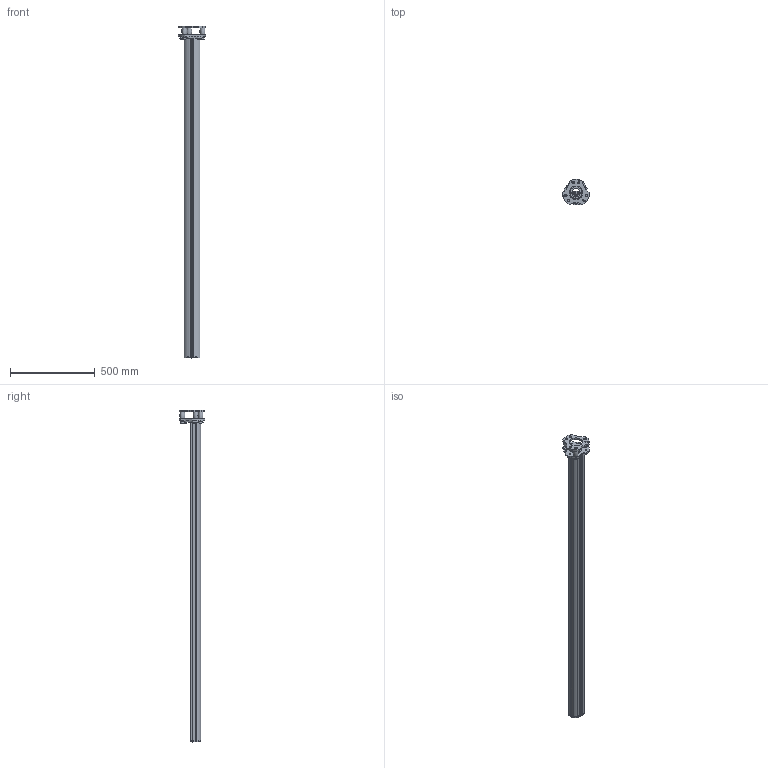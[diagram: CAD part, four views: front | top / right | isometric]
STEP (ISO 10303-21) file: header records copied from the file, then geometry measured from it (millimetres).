
FILE_DESCRIPTION((''),'2;1');
FILE_NAME('M:\INVENTORjob\Konstruktion\Ó\dulen\Baugruppe\Bauraummodelle\stp\549783_UMC-1900-S2.stp','2012-07-11T10:13:51',('seisen'),(''),'Autodesk Inventor 2009','Autodesk Inventor 2009','');
FILE_SCHEMA(('AUTOMOTIVE_DESIGN { 1 0 10303 214 1 1 1 1 }'));
Length unit declared in the file: millimetre
Products named in the file (23): 549783_UMC-1900-S2; 549783_UMC-1900-S21; 549783_UMC-1900-S22; 549783_UMC-1900-S23; 549783_UMC-1900-S24; 549783_UMC-1900-S25; 549783_UMC-1900-S26; 549783_UMC-1900-S27; 549783_UMC-1900-S28; 549783_UMC-1900-S29; 549783_UMC-1900-S210; 549783_UMC-1900-S211; 549783_UMC-1900-S212; 549783_UMC-1900-S213; 549783_UMC-1900-S214; 549783_UMC-1900-S215; 549783_UMC-1900-S216; 549783_UMC-1900-S217; 549783_UMC-1900-S218; 549783_UMC-1900-S219; 549783_UMC-1900-S220; 549783_UMC-1900-S221; 549783_UMC-1900-S222
Assembly tree (22 placements, depth 2):
  549783_UMC-1900-S2
    549783_UMC-1900-S21
    549783_UMC-1900-S22
    549783_UMC-1900-S23
    549783_UMC-1900-S24
    549783_UMC-1900-S25
    549783_UMC-1900-S26
    549783_UMC-1900-S27
    549783_UMC-1900-S28
    549783_UMC-1900-S29
    549783_UMC-1900-S210
    549783_UMC-1900-S211
    549783_UMC-1900-S212
    549783_UMC-1900-S213
    549783_UMC-1900-S214
    549783_UMC-1900-S215
    549783_UMC-1900-S216
    549783_UMC-1900-S217
    549783_UMC-1900-S218
    549783_UMC-1900-S219
    549783_UMC-1900-S220
    549783_UMC-1900-S221
    549783_UMC-1900-S222
Bounding box: 160 x 150.44 x 1959.98 mm (x, y, z)
Volume: 2922461.3 mm3; surface area: 2137124.7 mm2
Topology: 22 solids, 23 shells, 415 faces, 1029 edges, 677 vertices
Faces by surface type: plane 172, cylinder 142, bspline 77, cone 19, torus 4, revolution 1
Full cylindrical faces by diameter (mm): 5.4 x1, 6 x1, 6.43 x7, 6.7 x3, 8 x3, 8.4 x3, 10 x6, 10.5 x3, 10.628 x3, 11 x3, 11.5 x3, 12.2 x1, 13 x3, 15 x4, 15.2 x1, 15.5 x3, 16 x3, 22 x3, 49.93 x1, 70.626 x1, 79.93 x1
Entity records: 13340 total; most frequent: CARTESIAN_POINT 3061, DIRECTION 2009, ORIENTED_EDGE 1872, EDGE_CURVE 936, AXIS2_PLACEMENT_3D 729, VERTEX_POINT 674, EDGE_LOOP 596, VECTOR 550
